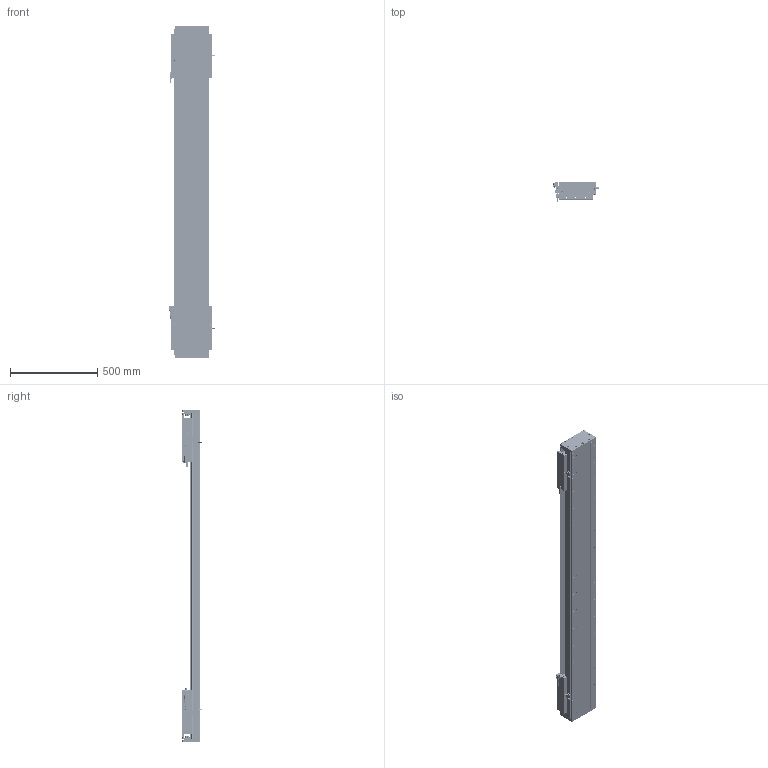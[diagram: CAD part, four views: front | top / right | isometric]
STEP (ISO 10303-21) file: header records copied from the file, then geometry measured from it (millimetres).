
FILE_DESCRIPTION (( 'STEP AP203' ), '1' );
FILE_NAME ('DA-C195-2-C3-T1280-C010-0.2 眻盄萇儂.STEP', '2025-08-15T00:37:05', ( '' ), ( '' ), 'SwSTEP 2.0', 'SolidWorks 2019', '' );
FILE_SCHEMA (( 'CONFIG_CONTROL_DESIGN' ));
Length unit declared in the file: millimetre
Products named in the file (19): MS200 棠掑喜S315-T240; IU-CU195-L-00 菁釱(L1860); DA195詩湍菜輸; DKW-GYP-ZJ-00 笢潔嫖萇覜茼え; DKW168-HXJ-ZJ-00 笢潔滅袉砎蝶; PM-Y65嫖萇羲壽郪璃; LMT黍杅芛; IU-CU195-L 菁釱絳寢; PM-T45ㄗ侂狟ㄘ; DKW-KGZ-ZJ-00 中间光电开关支架; DA195詩湍郪璃; DA195詩湍裔啣; 葩璃 DA95-GT-T-00; DA-C195-2-C3-T1280-C010-0.2 眻盄萇儂; DA-C195-GD-DB-H-00 傷啣; DA195詩湍嶺輸; DA95-HXJ-00 遣喳砎蝶; CU195-C3賑輸-俋楷; DA165-GYP-00 光电感应片(默认)
Assembly tree (37 placements, depth 3):
  DA-C195-2-C3-T1280-C010-0.2 眻盄萇儂
    DA195詩湍郪璃
      DA195詩湍菜輸  x2
      DA195詩湍裔啣
      DA195詩湍嶺輸  x2
      DA95-HXJ-00 遣喳砎蝶  x8
      DA-C195-GD-DB-H-00 傷啣  x2
    IU-CU195-L 菁釱絳寢
      IU-CU195-L-00 菁釱(L1860)
      葩璃 DA95-GT-T-00  x4
    LMT黍杅芛  x2
    MS200 棠掑喜S315-T240
    PM-T45ㄗ侂狟ㄘ  x4
    DA165-GYP-00 光电感应片(默认)  x2
    PM-Y65嫖萇羲壽郪璃
    DKW168-HXJ-ZJ-00 笢潔滅袉砎蝶
    DKW-GYP-ZJ-00 笢潔嫖萇覜茼え
    DKW-KGZ-ZJ-00 中间光电开关支架
    CU195-C3賑輸-俋楷  x2
Bounding box: 258.2 x 115.45 x 1900 mm (x, y, z)
Volume: 13395544.9 mm3; surface area: 3758575.6 mm2
Topology: 154 solids, 218 shells, 6601 faces, 17319 edges, 10741 vertices
Faces by surface type: cylinder 3010, plane 2539, cone 884, torus 88, sphere 72, bspline 8
Entity records: 134755 total; most frequent: CARTESIAN_POINT 34077, ORIENTED_EDGE 20654, DIRECTION 20264, EDGE_CURVE 10327, AXIS2_PLACEMENT_3D 7429, VERTEX_POINT 6666, LINE 5406, VECTOR 5406
